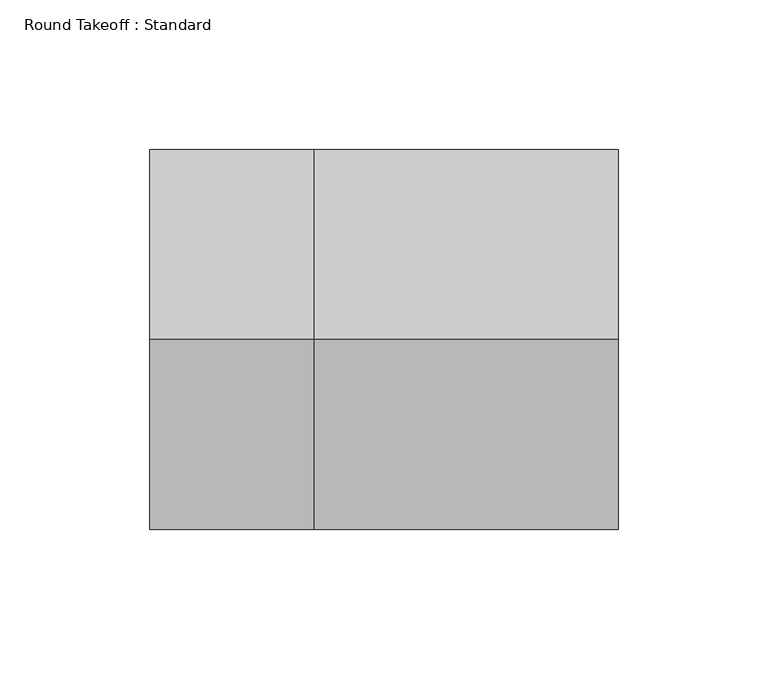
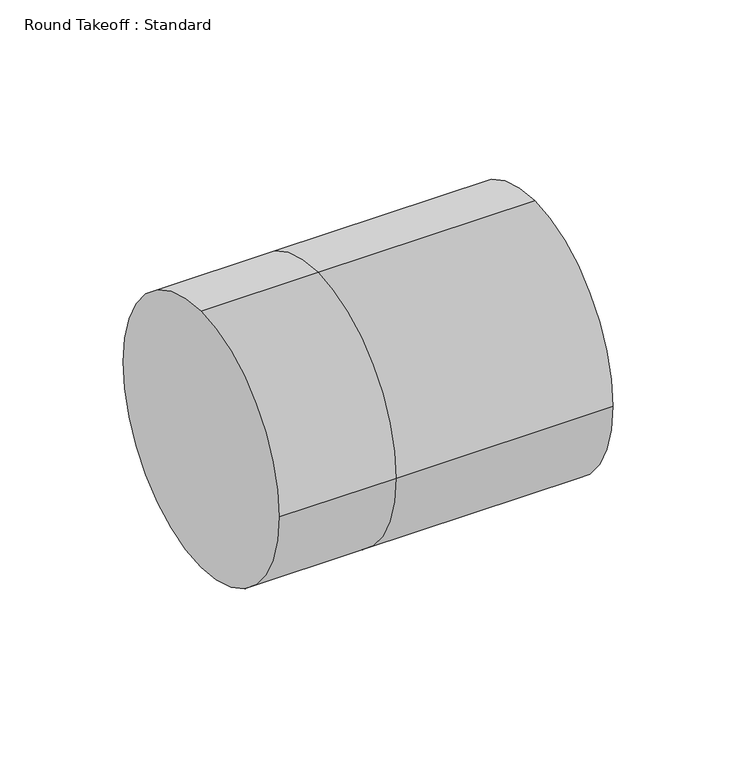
"""IFC4 building model written with IfcOpenShell, lengths in millimetres: duct fitting geometry, Round Takeoff : Standard."""

from ifc_helpers import new_model, si_unit, frame, origin, place, context, project, spatial, circle_curve, source, transform, mapped, element, save
from ifc_brep_helpers import plane_surface, cylinder_surface, advanced_brep


def round_takeoff_standard_331f3988(model_context):
    return source(origin(), model_context, "Body", "AdvancedBrep", [
        advanced_brep(
        [(101.6, 0.0, 63.5), (101.6, -63.5, 0.0), (101.6, 0.0, -63.5), (101.6, 63.5, 0.0), (0.0, 0.0, 63.5), (0.0, -63.5, 0.0), (0.0, 0.0, -63.5), (0.0, 63.5, 0.0), (-55.0779899, 0.0, 63.5), (-55.0779899, 63.5, 0.0), (-55.0779899, 0.0, -63.5), (-55.0779899, -63.5, 0.0)],
        [
            (0, 1, circle_curve(frame((101.6, 0.0, 0.0), z_axis=(1.0, 0.0, 0.0), x_axis=(0.0, -1.0, 0.0)), 63.5)),
            (1, 2, circle_curve(frame((101.6, 0.0, 0.0), z_axis=(1.0, 0.0, 0.0), x_axis=(0.0, -1.0, 0.0)), 63.5)),
            (2, 3, circle_curve(frame((101.6, 0.0, 0.0), z_axis=(1.0, 0.0, 0.0), x_axis=(0.0, -1.0, 0.0)), 63.5)),
            (3, 0, circle_curve(frame((101.6, 0.0, 0.0), z_axis=(1.0, 0.0, 0.0), x_axis=(0.0, -1.0, 0.0)), 63.5)),
            (0, 4),
            (4, 5, circle_curve(frame((0.0, 0.0, 0.0), z_axis=(1.0, 0.0, 0.0), x_axis=(0.0, -1.0, 0.0)), 63.5)),
            (5, 1),
            (5, 6, circle_curve(frame((0.0, 0.0, 0.0), z_axis=(1.0, 0.0, 0.0), x_axis=(0.0, -1.0, 0.0)), 63.5)),
            (6, 2),
            (6, 7, circle_curve(frame((0.0, 0.0, 0.0), z_axis=(1.0, 0.0, 0.0), x_axis=(0.0, -1.0, 0.0)), 63.5)),
            (7, 3),
            (7, 4, circle_curve(frame((0.0, 0.0, 0.0), z_axis=(1.0, 0.0, 0.0), x_axis=(0.0, -1.0, 0.0)), 63.5)),
            (8, 9, circle_curve(frame((-55.0779899, 0.0, 0.0), z_axis=(-1.0, 0.0, 0.0), x_axis=(0.0, -1.0, 0.0)), 63.5)),
            (9, 10, circle_curve(frame((-55.0779899, 0.0, 0.0), z_axis=(-1.0, 0.0, 0.0), x_axis=(0.0, -1.0, 0.0)), 63.5)),
            (10, 11, circle_curve(frame((-55.0779899, 0.0, 0.0), z_axis=(-1.0, 0.0, 0.0), x_axis=(0.0, -1.0, 0.0)), 63.5)),
            (11, 8, circle_curve(frame((-55.0779899, 0.0, 0.0), z_axis=(-1.0, 0.0, 0.0), x_axis=(0.0, -1.0, 0.0)), 63.5)),
            (11, 5),
            (4, 8),
            (10, 6),
            (9, 7),
        ],
        [
            plane_surface(frame((101.6, 0.0, 0.0), z_axis=(1.0, 0.0, 0.0), x_axis=(0.0, 0.0, 1.0))),
            cylinder_surface(frame((0.0, 0.0, 0.0), z_axis=(-1.0, 0.0, 0.0), x_axis=(0.0, -1.0, 0.0)), 63.5),
            plane_surface(frame((-55.0779899, 0.0, 0.0), z_axis=(-1.0, 0.0, 0.0), x_axis=(0.0, 0.0, 1.0))),
            cylinder_surface(frame((-55.0779899, 0.0, 0.0), z_axis=(-1.0, 0.0, 0.0), x_axis=(0.0, -1.0, 0.0)), 63.5),
        ],
        [
            (0, [[1, 2, 3, 4]]),
            (1, [[5, 6, 7, -1]]),
            (1, [[-7, 8, 9, -2]]),
            (1, [[-9, 10, 11, -3]]),
            (1, [[-11, 12, -5, -4]]),
            (2, [[13, 14, 15, 16]]),
            (3, [[17, -6, 18, -16]]),
            (3, [[19, -8, -17, -15]]),
            (3, [[20, -10, -19, -14]]),
            (3, [[-18, -12, -20, -13]]),
        ],
    ),
    ])


if __name__ == "__main__":
    model = new_model("IFC4")
    model_context = context("Model", 3, world=origin())
    ifc_project = project(units=[si_unit("LENGTHUNIT", "METRE", prefix="MILLI")], contexts=[model_context])
    site = spatial("IfcSite", under=ifc_project)
    building = spatial("IfcBuilding", under=site)
    placement = place(None, origin())
    round_takeoff_standard_shape = round_takeoff_standard_331f3988(model_context)
    element("IfcDuctFitting", 1, ObjectType="Round Takeoff : Standard", at=placement, inside=building, context=model_context, shape_type="MappedRepresentation", body=[
        mapped(round_takeoff_standard_shape, transform((0.0, 0.0, 0.0), x_axis=(1.0, 0.0, 0.0), y_axis=(0.0, 1.0, 0.0), z_axis=(0.0, 0.0, 1.0))),
    ])
    save(model, "model.ifc")
